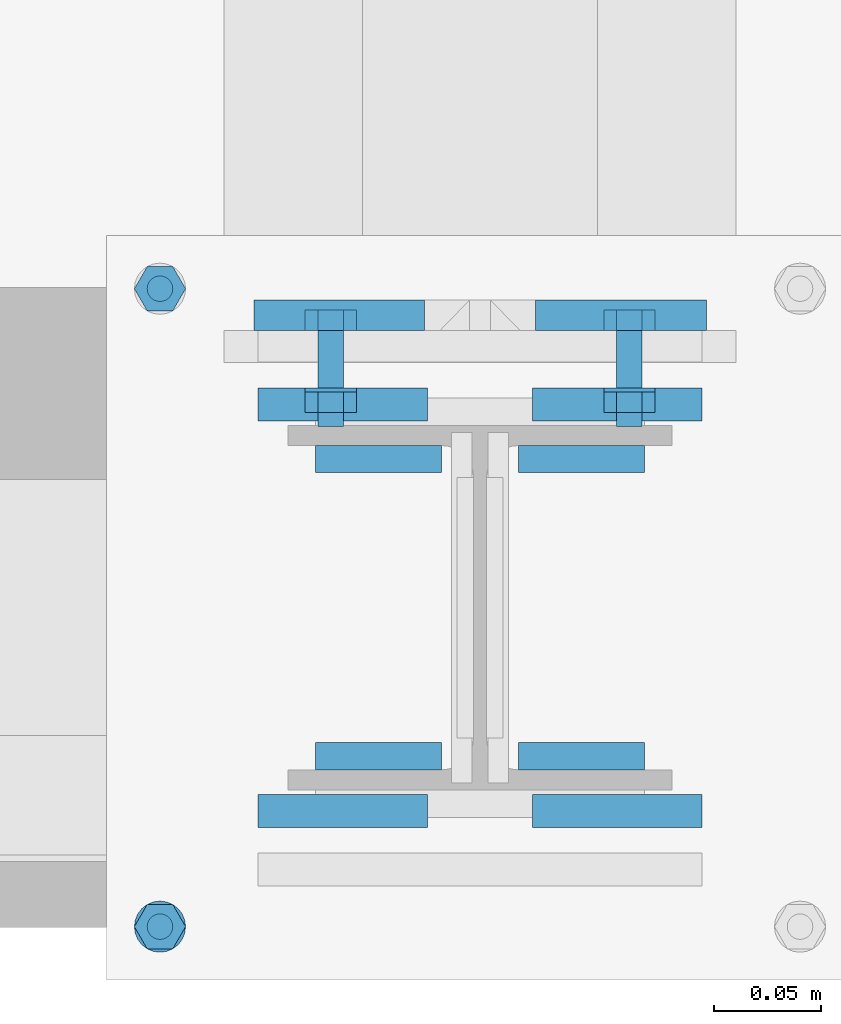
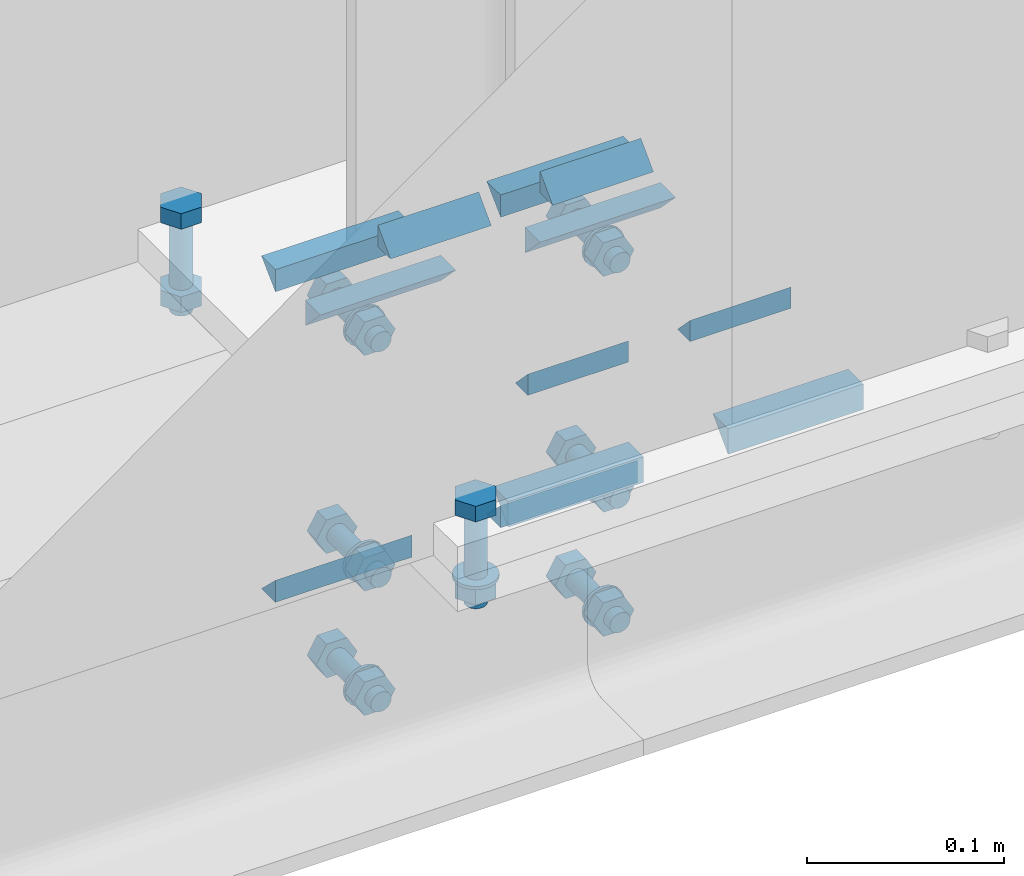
# One storey, part 36 of 66: 31 mechanical fasteners, 20 fasteners.
"""IFC4 building model written with IfcOpenShell, lengths in metres."""

import ifcopenshell
import ifcopenshell.guid

model = None  # the IFC model being written
_history = None  # IfcOwnerHistory: only IFC2X3 demands one
_inside = {}  # id of a spatial element -> (the spatial element, [elements in it])
_under = {}  # id of a project, library or spatial element -> (it, [spatial elements below it])
_declared = {}  # id of a project -> (the project, [libraries it declares])
_typed = {}  # id of a type object -> (the type object, [elements of that type])
_made_of = {}  # id of a material, layer set ... -> (it, [elements and type objects made of it])


def new_model(schema):
    """Start an empty IFC model of exactly this schema.

    Asked for "IFC4X3", IfcOpenShell would pick the latest addendum, in which some entities
    have other attributes; the version numbers below select the first issue.
    IFC2X3 requires an IfcOwnerHistory on every rooted entity: one is made here for all.
    """
    global model, _history
    if schema == "IFC4X3":
        model = ifcopenshell.file(schema_version=(4, 3, 0, 0))
    else:
        model = ifcopenshell.file(schema=schema)
    _inside.clear()
    _under.clear()
    _declared.clear()
    _typed.clear()
    _made_of.clear()
    _history = None
    if model.schema == "IFC2X3":
        org = make("IfcOrganization", Name="unknown")
        user = make(
            "IfcPersonAndOrganization",
            ThePerson=make("IfcPerson", FamilyName="unknown"),
            TheOrganization=org,
        )
        app = make(
            "IfcApplication",
            ApplicationDeveloper=org,
            Version="unknown",
            ApplicationFullName="unknown",
            ApplicationIdentifier="unknown",
        )
        _history = make(
            "IfcOwnerHistory",
            OwningUser=user,
            OwningApplication=app,
            ChangeAction="ADDED",
            CreationDate=0,
        )
    return model


def make(cls, **values):
    """One entity of the class cls with the attributes given. An attribute that is None is left unset."""
    return model.create_entity(
        cls, **{name: value for name, value in values.items() if value is not None}
    )


def rooted(cls, **values):
    """An entity with a GlobalId (a new one), such as an element, a storey or a relation."""
    return make(cls, GlobalId=ifcopenshell.guid.new(), OwnerHistory=_history, **values)


def si_unit(unit_type, name, prefix=None):
    """IfcSIUnit, for example si_unit("LENGTHUNIT", "METRE", prefix="MILLI")."""
    return make("IfcSIUnit", UnitType=unit_type, Prefix=prefix, Name=name)


def assignment(units):
    """IfcUnitAssignment: the units of a project."""
    return None if units is None else make("IfcUnitAssignment", Units=units)


def point(xyz):
    """IfcCartesianPoint."""
    return None if xyz is None else make("IfcCartesianPoint", Coordinates=xyz)


def direction(xyz):
    """IfcDirection."""
    return None if xyz is None else make("IfcDirection", DirectionRatios=xyz)


def frame(location, z_axis=None, x_axis=None):
    """IfcAxis2Placement3D, a coordinate frame: its origin and axes. An axis left out is left unset."""
    return make(
        "IfcAxis2Placement3D",
        Location=point(location),
        Axis=direction(z_axis),
        RefDirection=direction(x_axis),
    )


def origin_with_axes():
    """The frame at (0, 0, 0) with the z axis (0, 0, 1) and the x axis (1, 0, 0) written out."""
    return frame((0.0, 0.0, 0.0), z_axis=(0.0, 0.0, 1.0), x_axis=(1.0, 0.0, 0.0))


def place(relative_to, where):
    """IfcLocalPlacement: puts the frame where relative to a parent placement (None: the world)."""
    return make(
        "IfcLocalPlacement", PlacementRelTo=relative_to, RelativePlacement=where
    )


def context(
    kind, dimensions, precision=None, world=None, true_north=None, identifier=None
):
    """IfcGeometricRepresentationContext, for example the 3D "Model" context."""
    return make(
        "IfcGeometricRepresentationContext",
        ContextIdentifier=identifier,
        ContextType=kind,
        CoordinateSpaceDimension=dimensions,
        Precision=precision,
        WorldCoordinateSystem=world,
        TrueNorth=true_north,
    )


def project(units=None, contexts=None):
    """IfcProject with its units and contexts."""
    return rooted(
        "IfcProject",
        Name="project",
        RepresentationContexts=contexts,
        UnitsInContext=assignment(units),
    )


def spatial(cls, under=None, at=None, **own):
    """A site, building, storey or space (cls), placed at a placement, below another one or the project."""
    s = rooted(cls, ObjectPlacement=at, **own)
    if under is not None:
        _under.setdefault(under.id(), (under, []))[1].append(s)
    return s


def polyline(points):
    """IfcPolyline through the points."""
    return make("IfcPolyline", Points=[point(p) for p in points])


def outline(outer, holes=None, kind="AREA"):
    """IfcArbitraryClosedProfileDef: a profile drawn as a closed curve; with holes, ...WithVoids."""
    if holes is None:
        return make("IfcArbitraryClosedProfileDef", ProfileType=kind, OuterCurve=outer)
    return make(
        "IfcArbitraryProfileDefWithVoids",
        ProfileType=kind,
        OuterCurve=outer,
        InnerCurves=holes,
    )


def extrude(swept, where, along, depth):
    """IfcExtrudedAreaSolid: the profile swept, set in the frame where, extruded along a direction by depth."""
    return make(
        "IfcExtrudedAreaSolid",
        SweptArea=swept,
        Position=where,
        ExtrudedDirection=direction(along),
        Depth=depth,
    )


def shape(context_of_items, identifier, shape_type, items):
    """IfcShapeRepresentation: the items that make up one representation, for example the "Body"."""
    return make(
        "IfcShapeRepresentation",
        ContextOfItems=context_of_items,
        RepresentationIdentifier=identifier,
        RepresentationType=shape_type,
        Items=items,
    )


def made_of(thing, what):
    """Note that an element or type object is made of a material, layer set ...; save() writes the relation."""
    if what is not None:
        _made_of.setdefault(what.id(), (what, []))[1].append(thing)
    return thing


def type_object(cls, material=None, **own):
    """A type object (cls), such as IfcWallType, which elements share."""
    return made_of(rooted(cls, **own), material)


def element(
    cls,
    number,
    at=None,
    inside=None,
    cuts=None,
    type_object=None,
    material=None,
    context=None,
    identifier="Body",
    shape_type=None,
    held_by="IfcProductDefinitionShape",
    body=None,
    shapes=None,
    **own,
):
    """One element of the class cls, such as IfcWall. Its Tag is "e" and its number.

    at: its placement. inside: the storey or other place that contains it. cuts: it is an
    opening in that element (IfcRelVoidsElement). A single representation is given by context,
    identifier, shape_type and body (its items); several are given by shapes. held_by: the class
    of the entity that holds the representations. save() writes the other relations.
    """
    e = rooted(cls, Tag="e%d" % number, ObjectPlacement=at, **own)
    if body is not None:
        shapes = [shape(context, identifier, shape_type, body)]
    if shapes is not None:
        e.Representation = make(held_by, Representations=shapes)
    if inside is not None:
        _inside.setdefault(inside.id(), (inside, []))[1].append(e)
    if cuts is not None:
        rooted(
            "IfcRelVoidsElement", RelatingBuildingElement=cuts, RelatedOpeningElement=e
        )
    if type_object is not None:
        _typed.setdefault(type_object.id(), (type_object, []))[1].append(e)
    return made_of(e, material)


def aggregate(whole, parts):
    """IfcRelAggregates: a whole, such as a stair, and the parts it consists of."""
    return rooted("IfcRelAggregates", RelatingObject=whole, RelatedObjects=parts)


def save(model, path):
    """Write the relations noted so far, then the file.

    IfcRelAggregates (storeys below a building ...), IfcRelContainedInSpatialStructure (elements
    in a storey), IfcRelDefinesByType, IfcRelAssociatesMaterial and IfcRelDeclares: one each for
    every whole, place, type object, material and project.
    """
    for whole, parts in _under.values():
        aggregate(whole, parts)
    for where, things in _inside.values():
        rooted(
            "IfcRelContainedInSpatialStructure",
            RelatedElements=things,
            RelatingStructure=where,
        )
    for kind, things in _typed.values():
        rooted("IfcRelDefinesByType", RelatedObjects=things, RelatingType=kind)
    for what, things in _made_of.values():
        rooted("IfcRelAssociatesMaterial", RelatedObjects=things, RelatingMaterial=what)
    for by, libraries in _declared.values():
        rooted("IfcRelDeclares", RelatingContext=by, RelatedDefinitions=libraries)
    model.write(path)


model = new_model("IFC4")

# Units and contexts
model_context = context("Model", 3, precision=1e-05, world=origin_with_axes())
ifc_project = project(units=[si_unit("LENGTHUNIT", "METRE"), si_unit("AREAUNIT", "SQUARE_METRE"), si_unit("VOLUMEUNIT", "CUBIC_METRE"), si_unit("MASSUNIT", "GRAM", prefix="KILO"), si_unit("TIMEUNIT", "SECOND"), si_unit("PLANEANGLEUNIT", "RADIAN"), si_unit("SOLIDANGLEUNIT", "STERADIAN"), si_unit("THERMODYNAMICTEMPERATUREUNIT", "DEGREE_CELSIUS")], contexts=[model_context])

# Site, building, storey
placement_1 = place(None, origin_with_axes())
site = spatial("IfcSite", under=ifc_project, at=placement_1, Name="Italia", CompositionType="ELEMENT")
building = spatial("IfcBuilding", under=site, at=placement_1, Name="Uffici", CompositionType="ELEMENT")
storey_placement = place(None, frame((0.0, 0.0, 3.299999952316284), z_axis=(0.0, 0.0, 1.0), x_axis=(1.0, 0.0, 0.0)))
storey = spatial("IfcBuildingStorey", under=building, at=storey_placement, Name="Storey 1", CompositionType="ELEMENT", Elevation=3.299999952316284)

# Fasteners
fastener_type_1 = type_object("IfcFastenerType", Name="Collegamenti 0101_-001 0102_-002 0103_-003 0104_-004", PredefinedType="WELD")
placement_2 = place(placement_1, origin_with_axes())
fastener_1_placement = place(placement_2, origin_with_axes())
element("IfcFastener", 1, at=fastener_1_placement, inside=storey, type_object=fastener_type_1, Name="Collegamenti 0101_-001 0102_-002 0103_-003 0104_-004", context=model_context, shape_type="SweptSolid", body=[
    extrude(outline(polyline([(0.0, 0.0), (-0.0141734, 0.0137482), (0.0, 0.0137482), (0.0, 0.0)])), frame((6.72905, 0.12995, 3.2693), z_axis=(-1.0, 0.0, 0.0), x_axis=(0.0, -1.0, 0.0)), (0.0, 0.0, 1.0), 0.0801001),
])
fastener_type_2 = type_object("IfcFastenerType", Name="Collegamenti 0101_-001 0102_-002 0103_-003 0104_-004", PredefinedType="WELD")
fastener_2_placement = place(placement_2, origin_with_axes())
element("IfcFastener", 2, at=fastener_2_placement, inside=storey, type_object=fastener_type_2, Name="Collegamenti 0101_-001 0102_-002 0103_-003 0104_-004", context=model_context, shape_type="SweptSolid", body=[
    extrude(outline(polyline([(0.0, 0.0), (0.0141734, -0.0137482), (0.0, -0.0137482), (0.0, 0.0)])), frame((6.64895, 0.12995, 3.0907), z_axis=(1.0, 0.0, 0.0), x_axis=(0.0, 1.0, 0.0)), (0.0, 0.0, 1.0), 0.0801001),
])
fastener_type_3 = type_object("IfcFastenerType", Name="Collegamenti 0101_-001 0102_-002 0103_-003 0104_-004", PredefinedType="WELD")
fastener_3_placement = place(placement_2, origin_with_axes())
element("IfcFastener", 3, at=fastener_3_placement, inside=storey, type_object=fastener_type_3, Name="Collegamenti 0101_-001 0102_-002 0103_-003 0104_-004", context=model_context, shape_type="SweptSolid", body=[
    extrude(outline(polyline([(0.0, 0.0), (0.0141734, -0.0137482), (0.0, -0.0137482), (0.0, 0.0)])), frame((6.78095, 0.12995, 3.0907), z_axis=(1.0, 0.0, 0.0), x_axis=(0.0, 1.0, 0.0)), (0.0, 0.0, 1.0), 0.0801001),
])
fastener_type_4 = type_object("IfcFastenerType", Name="Collegamenti 0101_-001 0102_-002 0103_-003 0104_-004", PredefinedType="WELD")
fastener_4_placement = place(placement_2, origin_with_axes())
element("IfcFastener", 4, at=fastener_4_placement, inside=storey, type_object=fastener_type_4, Name="Collegamenti 0101_-001 0102_-002 0103_-003 0104_-004", context=model_context, shape_type="SweptSolid", body=[
    extrude(outline(polyline([(0.0, 0.0), (-0.0141733, 0.0137482), (0.0, 0.0137482), (0.0, 0.0)])), frame((6.86105, 0.12995, 3.2693), z_axis=(-1.0, 0.0, 0.0), x_axis=(0.0, -1.0, 0.0)), (0.0, 0.0, 1.0), 0.0801001),
])
fastener_type_5 = type_object("IfcFastenerType", Name="Collegamenti 0101_-001 0102_-002 0103_-003 0104_-004", PredefinedType="WELD")
fastener_5_placement = place(placement_2, origin_with_axes())
element("IfcFastener", 5, at=fastener_5_placement, inside=storey, type_object=fastener_type_5, Name="Collegamenti 0101_-001 0102_-002 0103_-003 0104_-004", context=model_context, shape_type="SweptSolid", body=[
    extrude(outline(polyline([(0.0, 0.0), (-0.0141734, 0.0137482), (0.0, 0.0137482), (0.0, 0.0)])), frame((6.72905, 0.12995, 3.2693), z_axis=(-1.0, 0.0, 0.0), x_axis=(0.0, -1.0, 0.0)), (0.0, 0.0, 1.0), 0.0801001),
])
fastener_type_6 = type_object("IfcFastenerType", Name="Collegamenti 0101_-001 0102_-002 0103_-003 0104_-004", PredefinedType="WELD")
fastener_6_placement = place(placement_2, origin_with_axes())
element("IfcFastener", 6, at=fastener_6_placement, inside=storey, type_object=fastener_type_6, Name="Collegamenti 0101_-001 0102_-002 0103_-003 0104_-004", context=model_context, shape_type="SweptSolid", body=[
    extrude(outline(polyline([(0.0, 0.0), (0.0141734, -0.0137482), (0.0, -0.0137482), (0.0, 0.0)])), frame((6.64895, 0.12995, 3.0907), z_axis=(1.0, 0.0, 0.0), x_axis=(0.0, 1.0, 0.0)), (0.0, 0.0, 1.0), 0.0801001),
])
fastener_type_7 = type_object("IfcFastenerType", Name="Collegamenti 0101_-001 0102_-002 0103_-003 0104_-004", PredefinedType="WELD")
fastener_7_placement = place(placement_2, origin_with_axes())
element("IfcFastener", 7, at=fastener_7_placement, inside=storey, type_object=fastener_type_7, Name="Collegamenti 0101_-001 0102_-002 0103_-003 0104_-004", context=model_context, shape_type="SweptSolid", body=[
    extrude(outline(polyline([(0.0, 0.0), (0.0141734, -0.0137482), (0.0, -0.0137482), (0.0, 0.0)])), frame((6.78095, 0.12995, 3.0907), z_axis=(1.0, 0.0, 0.0), x_axis=(0.0, 1.0, 0.0)), (0.0, 0.0, 1.0), 0.0801001),
])
fastener_type_8 = type_object("IfcFastenerType", Name="Collegamenti 0101_-001 0102_-002 0103_-003 0104_-004", PredefinedType="WELD")
fastener_8_placement = place(placement_2, origin_with_axes())
element("IfcFastener", 8, at=fastener_8_placement, inside=storey, type_object=fastener_type_8, Name="Collegamenti 0101_-001 0102_-002 0103_-003 0104_-004", context=model_context, shape_type="SweptSolid", body=[
    extrude(outline(polyline([(0.0, 0.0), (-0.0141733, 0.0137482), (0.0, 0.0137482), (0.0, 0.0)])), frame((6.86105, 0.12995, 3.2693), z_axis=(-1.0, 0.0, 0.0), x_axis=(0.0, -1.0, 0.0)), (0.0, 0.0, 1.0), 0.0801001),
])

# Mechanical fasteners
mechanical_fastener_type_1 = type_object("IfcMechanicalFastenerType", Name="Collegamenti 0101_-001 0102_-002 0103_-003 0104_-004", PredefinedType="BOLT")
mechanical_fastener_1_placement = place(placement_2, origin_with_axes())
element("IfcMechanicalFastener", 9, at=mechanical_fastener_1_placement, inside=storey, type_object=mechanical_fastener_type_1, Name="Collegamenti 0101_-001 0102_-002 0103_-003 0104_-004", NominalDiameter=0.0119997, context=model_context, shape_type="SweptSolid", body=[
    extrude(outline(polyline([(0.0, 0.0), (-0.0120001, 0.0), (-0.0179996, 0.0103924), (-0.0120001, 0.0207846), (0.0, 0.0207846), (0.00600004, 0.0103924), (0.0, 0.0)])), frame((6.819, 0.13, 3.09661), z_axis=(0.0, 1.0, 0.0), x_axis=(-1.0, 0.0, 0.0)), (0.0, 0.0, 1.0), 0.0096),
])
mechanical_fastener_type_2 = type_object("IfcMechanicalFastenerType", Name="Collegamenti 0101_-001 0102_-002 0103_-003 0104_-004", PredefinedType="BOLT")
mechanical_fastener_2_placement = place(placement_2, origin_with_axes())
element("IfcMechanicalFastener", 10, at=mechanical_fastener_2_placement, inside=storey, type_object=mechanical_fastener_type_2, Name="Collegamenti 0101_-001 0102_-002 0103_-003 0104_-004", NominalDiameter=0.012, context=model_context, shape_type="SweptSolid", body=[
    extrude(outline(polyline([(0.0, 0.0), (-0.000204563, -0.00155282), (-0.000803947, -0.00300002), (-0.00175762, -0.00424266), (-0.00300026, -0.00519609), (-0.00444698, -0.00579548), (-0.00600004, -0.00600004), (-0.0075531, -0.00579548), (-0.00899982, -0.00519609), (-0.0102425, -0.00424266), (-0.0111961, -0.00300002), (-0.0117955, -0.00155282), (-0.0120001, 0.0), (-0.0117955, 0.00155282), (-0.0111961, 0.00300002), (-0.0102425, 0.00424266), (-0.00899982, 0.00519609), (-0.0075531, 0.00579548), (-0.00600004, 0.00600004), (-0.00444698, 0.00579548), (-0.00300026, 0.00519609), (-0.00175762, 0.00424266), (-0.000803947, 0.00300002), (-0.000204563, 0.00155282), (0.0, 0.0)])), frame((6.819, 0.085, 3.107), z_axis=(0.0, 1.0, 0.0), x_axis=(-1.0, 0.0, 0.0)), (0.0, 0.0, 1.0), 0.045),
])
mechanical_fastener_type_3 = type_object("IfcMechanicalFastenerType", Name="Collegamenti 0101_-001 0102_-002 0103_-003 0104_-004", PredefinedType="BOLT")
mechanical_fastener_3_placement = place(placement_2, origin_with_axes())
element("IfcMechanicalFastener", 11, at=mechanical_fastener_3_placement, inside=storey, type_object=mechanical_fastener_type_3, Name="Collegamenti 0101_-001 0102_-002 0103_-003 0104_-004", NominalDiameter=0.0119997, context=model_context, shape_type="SweptSolid", body=[
    extrude(outline(polyline([(0.0, 0.0), (-0.0120001, 0.0), (-0.0179996, 0.0103924), (-0.0120001, 0.0207846), (0.0, 0.0207846), (0.00600004, 0.0103924), (0.0, 0.0)])), frame((6.819, 0.0914, 3.09661), z_axis=(0.0, 1.0, 0.0), x_axis=(-1.0, 0.0, 0.0)), (0.0, 0.0, 1.0), 0.0096),
])
mechanical_fastener_type_4 = type_object("IfcMechanicalFastenerType", Name="Collegamenti 0101_-001 0102_-002 0103_-003 0104_-004", PredefinedType="BOLT")
mechanical_fastener_4_placement = place(placement_2, origin_with_axes())
element("IfcMechanicalFastener", 12, at=mechanical_fastener_4_placement, inside=storey, type_object=mechanical_fastener_type_4, Name="Collegamenti 0101_-001 0102_-002 0103_-003 0104_-004", NominalDiameter=0.024, context=model_context, shape_type="SweptSolid", body=[
    extrude(outline(polyline([(0.0, 0.0), (-0.000409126, -0.00310588), (-0.00160789, -0.00600004), (-0.00351477, -0.00848532), (-0.00600004, -0.0103922), (-0.00889444, -0.0115912), (-0.0120001, -0.0120001), (-0.0151057, -0.0115912), (-0.0180001, -0.0103922), (-0.0204854, -0.00848532), (-0.0223923, -0.00600004), (-0.023591, -0.00310588), (-0.0240002, 0.0), (-0.023591, 0.00310588), (-0.0223923, 0.00600004), (-0.0204854, 0.00848532), (-0.0180001, 0.0103922), (-0.0151057, 0.0115912), (-0.0120001, 0.0120001), (-0.00889444, 0.0115912), (-0.00600004, 0.0103922), (-0.00351477, 0.00848532), (-0.00160789, 0.00600004), (-0.000409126, 0.00310588), (0.0, 0.0)])), frame((6.813, 0.101, 3.107), z_axis=(0.0, 1.0, 0.0), x_axis=(-1.0, 0.0, 0.0)), (0.0, 0.0, 1.0), 0.002),
])
mechanical_fastener_type_5 = type_object("IfcMechanicalFastenerType", Name="Collegamenti 0101_-001 0102_-002 0103_-003 0104_-004", PredefinedType="BOLT")
mechanical_fastener_5_placement = place(placement_2, origin_with_axes())
element("IfcMechanicalFastener", 13, at=mechanical_fastener_5_placement, inside=storey, type_object=mechanical_fastener_type_5, Name="Collegamenti 0101_-001 0102_-002 0103_-003 0104_-004", NominalDiameter=0.0119997, context=model_context, shape_type="SweptSolid", body=[
    extrude(outline(polyline([(0.0, 0.0), (-0.0120001, 0.0), (-0.0180001, 0.0103924), (-0.0120001, 0.0207846), (0.0, 0.0207846), (0.00599957, 0.0103924), (0.0, 0.0)])), frame((6.679, 0.13, 3.09661), z_axis=(0.0, 1.0, 0.0), x_axis=(-1.0, 0.0, 0.0)), (0.0, 0.0, 1.0), 0.0096),
])
mechanical_fastener_type_6 = type_object("IfcMechanicalFastenerType", Name="Collegamenti 0101_-001 0102_-002 0103_-003 0104_-004", PredefinedType="BOLT")
mechanical_fastener_6_placement = place(placement_2, origin_with_axes())
element("IfcMechanicalFastener", 14, at=mechanical_fastener_6_placement, inside=storey, type_object=mechanical_fastener_type_6, Name="Collegamenti 0101_-001 0102_-002 0103_-003 0104_-004", NominalDiameter=0.012, context=model_context, shape_type="SweptSolid", body=[
    extrude(outline(polyline([(0.0, 0.0), (-0.000204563, -0.00155282), (-0.000803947, -0.00300002), (-0.00175762, -0.00424266), (-0.00300026, -0.00519609), (-0.00444698, -0.00579548), (-0.00600004, -0.00600004), (-0.0075531, -0.00579548), (-0.00899982, -0.00519609), (-0.0102425, -0.00424266), (-0.0111961, -0.00300002), (-0.0117955, -0.00155282), (-0.0120001, 0.0), (-0.0117955, 0.00155282), (-0.0111961, 0.00300002), (-0.0102425, 0.00424266), (-0.00899982, 0.00519609), (-0.0075531, 0.00579548), (-0.00600004, 0.00600004), (-0.00444698, 0.00579548), (-0.00300026, 0.00519609), (-0.00175762, 0.00424266), (-0.000803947, 0.00300002), (-0.000204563, 0.00155282), (0.0, 0.0)])), frame((6.679, 0.085, 3.107), z_axis=(0.0, 1.0, 0.0), x_axis=(-1.0, 0.0, 0.0)), (0.0, 0.0, 1.0), 0.045),
])
mechanical_fastener_type_7 = type_object("IfcMechanicalFastenerType", Name="Collegamenti 0101_-001 0102_-002 0103_-003 0104_-004", PredefinedType="BOLT")
mechanical_fastener_7_placement = place(placement_2, origin_with_axes())
element("IfcMechanicalFastener", 15, at=mechanical_fastener_7_placement, inside=storey, type_object=mechanical_fastener_type_7, Name="Collegamenti 0101_-001 0102_-002 0103_-003 0104_-004", NominalDiameter=0.0119997, context=model_context, shape_type="SweptSolid", body=[
    extrude(outline(polyline([(0.0, 0.0), (-0.0120001, 0.0), (-0.0180001, 0.0103924), (-0.0120001, 0.0207846), (0.0, 0.0207846), (0.00599957, 0.0103924), (0.0, 0.0)])), frame((6.679, 0.0914, 3.09661), z_axis=(0.0, 1.0, 0.0), x_axis=(-1.0, 0.0, 0.0)), (0.0, 0.0, 1.0), 0.00960001),
])
mechanical_fastener_type_8 = type_object("IfcMechanicalFastenerType", Name="Collegamenti 0101_-001 0102_-002 0103_-003 0104_-004", PredefinedType="BOLT")
mechanical_fastener_8_placement = place(placement_2, origin_with_axes())
element("IfcMechanicalFastener", 16, at=mechanical_fastener_8_placement, inside=storey, type_object=mechanical_fastener_type_8, Name="Collegamenti 0101_-001 0102_-002 0103_-003 0104_-004", NominalDiameter=0.024, context=model_context, shape_type="SweptSolid", body=[
    extrude(outline(polyline([(0.0, 0.0), (-0.000409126, -0.00310588), (-0.00160789, -0.00600004), (-0.00351477, -0.00848532), (-0.00600004, -0.0103922), (-0.00889444, -0.0115912), (-0.0120001, -0.0120001), (-0.0151057, -0.0115912), (-0.0180001, -0.0103922), (-0.0204854, -0.00848532), (-0.0223923, -0.00600004), (-0.023591, -0.00310588), (-0.0240002, 0.0), (-0.023591, 0.00310588), (-0.0223923, 0.00600004), (-0.0204854, 0.00848532), (-0.0180001, 0.0103922), (-0.0151057, 0.0115912), (-0.0120001, 0.0120001), (-0.00889444, 0.0115912), (-0.00600004, 0.0103922), (-0.00351477, 0.00848532), (-0.00160789, 0.00600004), (-0.000409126, 0.00310588), (0.0, 0.0)])), frame((6.673, 0.101, 3.107), z_axis=(0.0, 1.0, 0.0), x_axis=(-1.0, 0.0, 0.0)), (0.0, 0.0, 1.0), 0.002),
])
mechanical_fastener_type_9 = type_object("IfcMechanicalFastenerType", Name="Collegamenti 0101_-001 0102_-002 0103_-003 0104_-004", PredefinedType="BOLT")
mechanical_fastener_9_placement = place(placement_2, origin_with_axes())
element("IfcMechanicalFastener", 17, at=mechanical_fastener_9_placement, inside=storey, type_object=mechanical_fastener_type_9, Name="Collegamenti 0101_-001 0102_-002 0103_-003 0104_-004", NominalDiameter=0.0119997, context=model_context, shape_type="SweptSolid", body=[
    extrude(outline(polyline([(0.0, 0.0), (-0.0120001, 0.0), (-0.0179996, 0.0103922), (-0.0120001, 0.0207846), (0.0, 0.0207846), (0.00600004, 0.0103922), (0.0, 0.0)])), frame((6.819, 0.13, 3.24261), z_axis=(0.0, 1.0, 0.0), x_axis=(-1.0, 0.0, 0.0)), (0.0, 0.0, 1.0), 0.0096),
])
mechanical_fastener_type_10 = type_object("IfcMechanicalFastenerType", Name="Collegamenti 0101_-001 0102_-002 0103_-003 0104_-004", PredefinedType="BOLT")
mechanical_fastener_10_placement = place(placement_2, origin_with_axes())
element("IfcMechanicalFastener", 18, at=mechanical_fastener_10_placement, inside=storey, type_object=mechanical_fastener_type_10, Name="Collegamenti 0101_-001 0102_-002 0103_-003 0104_-004", NominalDiameter=0.012, context=model_context, shape_type="SweptSolid", body=[
    extrude(outline(polyline([(0.0, 0.0), (-0.000204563, -0.00155282), (-0.000803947, -0.00300002), (-0.00175762, -0.00424266), (-0.00300026, -0.00519609), (-0.00444698, -0.00579548), (-0.00600004, -0.00600004), (-0.0075531, -0.00579548), (-0.00899982, -0.00519609), (-0.0102425, -0.00424266), (-0.0111961, -0.00300002), (-0.0117955, -0.00155282), (-0.0120001, 0.0), (-0.0117955, 0.00155282), (-0.0111961, 0.00300002), (-0.0102425, 0.00424266), (-0.00899982, 0.00519609), (-0.0075531, 0.00579548), (-0.00600004, 0.00600004), (-0.00444698, 0.00579548), (-0.00300026, 0.00519609), (-0.00175762, 0.00424266), (-0.000803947, 0.00300002), (-0.000204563, 0.00155282), (0.0, 0.0)])), frame((6.819, 0.085, 3.253), z_axis=(0.0, 1.0, 0.0), x_axis=(-1.0, 0.0, 0.0)), (0.0, 0.0, 1.0), 0.045),
])
mechanical_fastener_type_11 = type_object("IfcMechanicalFastenerType", Name="Collegamenti 0101_-001 0102_-002 0103_-003 0104_-004", PredefinedType="BOLT")
mechanical_fastener_11_placement = place(placement_2, origin_with_axes())
element("IfcMechanicalFastener", 19, at=mechanical_fastener_11_placement, inside=storey, type_object=mechanical_fastener_type_11, Name="Collegamenti 0101_-001 0102_-002 0103_-003 0104_-004", NominalDiameter=0.0119997, context=model_context, shape_type="SweptSolid", body=[
    extrude(outline(polyline([(0.0, 0.0), (-0.0120001, 0.0), (-0.0179996, 0.0103922), (-0.0120001, 0.0207846), (0.0, 0.0207846), (0.00600004, 0.0103922), (0.0, 0.0)])), frame((6.819, 0.0914, 3.24261), z_axis=(0.0, 1.0, 0.0), x_axis=(-1.0, 0.0, 0.0)), (0.0, 0.0, 1.0), 0.0096),
])
mechanical_fastener_type_12 = type_object("IfcMechanicalFastenerType", Name="Collegamenti 0101_-001 0102_-002 0103_-003 0104_-004", PredefinedType="BOLT")
mechanical_fastener_12_placement = place(placement_2, origin_with_axes())
element("IfcMechanicalFastener", 20, at=mechanical_fastener_12_placement, inside=storey, type_object=mechanical_fastener_type_12, Name="Collegamenti 0101_-001 0102_-002 0103_-003 0104_-004", NominalDiameter=0.024, context=model_context, shape_type="SweptSolid", body=[
    extrude(outline(polyline([(0.0, 0.0), (-0.000409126, -0.00310588), (-0.00160789, -0.00600004), (-0.00351477, -0.00848532), (-0.00600004, -0.0103922), (-0.00889444, -0.0115912), (-0.0120001, -0.0120001), (-0.0151057, -0.0115912), (-0.0180001, -0.0103922), (-0.0204854, -0.00848532), (-0.0223923, -0.00600004), (-0.023591, -0.00310588), (-0.0240002, 0.0), (-0.023591, 0.00310588), (-0.0223923, 0.00600004), (-0.0204854, 0.00848532), (-0.0180001, 0.0103922), (-0.0151057, 0.0115912), (-0.0120001, 0.0120001), (-0.00889444, 0.0115912), (-0.00600004, 0.0103922), (-0.00351477, 0.00848532), (-0.00160789, 0.00600004), (-0.000409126, 0.00310588), (0.0, 0.0)])), frame((6.813, 0.101, 3.253), z_axis=(0.0, 1.0, 0.0), x_axis=(-1.0, 0.0, 0.0)), (0.0, 0.0, 1.0), 0.002),
])
mechanical_fastener_type_13 = type_object("IfcMechanicalFastenerType", Name="Collegamenti 0101_-001 0102_-002 0103_-003 0104_-004", PredefinedType="BOLT")
mechanical_fastener_13_placement = place(placement_2, origin_with_axes())
element("IfcMechanicalFastener", 21, at=mechanical_fastener_13_placement, inside=storey, type_object=mechanical_fastener_type_13, Name="Collegamenti 0101_-001 0102_-002 0103_-003 0104_-004", NominalDiameter=0.0119997, context=model_context, shape_type="SweptSolid", body=[
    extrude(outline(polyline([(0.0, 0.0), (-0.0120001, 0.0), (-0.0180001, 0.0103922), (-0.0120001, 0.0207846), (0.0, 0.0207846), (0.00599957, 0.0103922), (0.0, 0.0)])), frame((6.679, 0.13, 3.24261), z_axis=(0.0, 1.0, 0.0), x_axis=(-1.0, 0.0, 0.0)), (0.0, 0.0, 1.0), 0.0096),
])
mechanical_fastener_type_14 = type_object("IfcMechanicalFastenerType", Name="Collegamenti 0101_-001 0102_-002 0103_-003 0104_-004", PredefinedType="BOLT")
mechanical_fastener_14_placement = place(placement_2, origin_with_axes())
element("IfcMechanicalFastener", 22, at=mechanical_fastener_14_placement, inside=storey, type_object=mechanical_fastener_type_14, Name="Collegamenti 0101_-001 0102_-002 0103_-003 0104_-004", NominalDiameter=0.012, context=model_context, shape_type="SweptSolid", body=[
    extrude(outline(polyline([(0.0, 0.0), (-0.000204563, -0.00155282), (-0.000803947, -0.00300002), (-0.00175762, -0.00424266), (-0.00300026, -0.00519609), (-0.00444698, -0.00579548), (-0.00600004, -0.00600004), (-0.0075531, -0.00579548), (-0.00899982, -0.00519609), (-0.0102425, -0.00424266), (-0.0111961, -0.00300002), (-0.0117955, -0.00155282), (-0.0120001, 0.0), (-0.0117955, 0.00155282), (-0.0111961, 0.00300002), (-0.0102425, 0.00424266), (-0.00899982, 0.00519609), (-0.0075531, 0.00579548), (-0.00600004, 0.00600004), (-0.00444698, 0.00579548), (-0.00300026, 0.00519609), (-0.00175762, 0.00424266), (-0.000803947, 0.00300002), (-0.000204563, 0.00155282), (0.0, 0.0)])), frame((6.679, 0.085, 3.253), z_axis=(0.0, 1.0, 0.0), x_axis=(-1.0, 0.0, 0.0)), (0.0, 0.0, 1.0), 0.045),
])
mechanical_fastener_type_15 = type_object("IfcMechanicalFastenerType", Name="Collegamenti 0101_-001 0102_-002 0103_-003 0104_-004", PredefinedType="BOLT")
mechanical_fastener_15_placement = place(placement_2, origin_with_axes())
element("IfcMechanicalFastener", 23, at=mechanical_fastener_15_placement, inside=storey, type_object=mechanical_fastener_type_15, Name="Collegamenti 0101_-001 0102_-002 0103_-003 0104_-004", NominalDiameter=0.0119997, context=model_context, shape_type="SweptSolid", body=[
    extrude(outline(polyline([(0.0, 0.0), (-0.0120001, 0.0), (-0.0180001, 0.0103922), (-0.0120001, 0.0207846), (0.0, 0.0207846), (0.00599957, 0.0103922), (0.0, 0.0)])), frame((6.679, 0.0914, 3.24261), z_axis=(0.0, 1.0, 0.0), x_axis=(-1.0, 0.0, 0.0)), (0.0, 0.0, 1.0), 0.00960001),
])
mechanical_fastener_type_16 = type_object("IfcMechanicalFastenerType", Name="Collegamenti 0101_-001 0102_-002 0103_-003 0104_-004", PredefinedType="BOLT")
mechanical_fastener_16_placement = place(placement_2, origin_with_axes())
element("IfcMechanicalFastener", 24, at=mechanical_fastener_16_placement, inside=storey, type_object=mechanical_fastener_type_16, Name="Collegamenti 0101_-001 0102_-002 0103_-003 0104_-004", NominalDiameter=0.024, context=model_context, shape_type="SweptSolid", body=[
    extrude(outline(polyline([(0.0, 0.0), (-0.000409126, -0.00310588), (-0.00160789, -0.00600004), (-0.00351477, -0.00848532), (-0.00600004, -0.0103922), (-0.00889444, -0.0115912), (-0.0120001, -0.0120001), (-0.0151057, -0.0115912), (-0.0180001, -0.0103922), (-0.0204854, -0.00848532), (-0.0223923, -0.00600004), (-0.023591, -0.00310588), (-0.0240002, 0.0), (-0.023591, 0.00310588), (-0.0223923, 0.00600004), (-0.0204854, 0.00848532), (-0.0180001, 0.0103922), (-0.0151057, 0.0115912), (-0.0120001, 0.0120001), (-0.00889444, 0.0115912), (-0.00600004, 0.0103922), (-0.00351477, 0.00848532), (-0.00160789, 0.00600004), (-0.000409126, 0.00310588), (0.0, 0.0)])), frame((6.673, 0.101, 3.253), z_axis=(0.0, 1.0, 0.0), x_axis=(-1.0, 0.0, 0.0)), (0.0, 0.0, 1.0), 0.002),
])
mechanical_fastener_type_17 = type_object("IfcMechanicalFastenerType", Name="Collegamenti 0101_-001 0102_-002 0103_-003 0104_-004", PredefinedType="BOLT")
mechanical_fastener_17_placement = place(placement_2, origin_with_axes())
element("IfcMechanicalFastener", 25, at=mechanical_fastener_17_placement, inside=storey, type_object=mechanical_fastener_type_17, Name="Collegamenti 0101_-001 0102_-002 0103_-003 0104_-004", NominalDiameter=0.0119997, context=model_context, shape_type="SweptSolid", body=[
    extrude(outline(polyline([(0.0, 0.0), (-0.0120001, 0.0), (-0.0179996, 0.0103922), (-0.0120001, 0.0207846), (0.0, 0.0207846), (0.00600004, 0.0103922), (0.0, 0.0)])), frame((6.819, 0.13, 3.01961), z_axis=(0.0, 1.0, 0.0), x_axis=(-1.0, 0.0, 0.0)), (0.0, 0.0, 1.0), 0.0096),
])
mechanical_fastener_type_18 = type_object("IfcMechanicalFastenerType", Name="Collegamenti 0101_-001 0102_-002 0103_-003 0104_-004", PredefinedType="BOLT")
mechanical_fastener_18_placement = place(placement_2, origin_with_axes())
element("IfcMechanicalFastener", 26, at=mechanical_fastener_18_placement, inside=storey, type_object=mechanical_fastener_type_18, Name="Collegamenti 0101_-001 0102_-002 0103_-003 0104_-004", NominalDiameter=0.012, context=model_context, shape_type="SweptSolid", body=[
    extrude(outline(polyline([(0.0, 0.0), (-0.000204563, -0.00155282), (-0.000803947, -0.00300002), (-0.00175762, -0.00424266), (-0.00300026, -0.00519609), (-0.00444698, -0.00579548), (-0.00600004, -0.00600004), (-0.0075531, -0.00579548), (-0.00899982, -0.00519609), (-0.0102425, -0.00424266), (-0.0111961, -0.00300002), (-0.0117955, -0.00155282), (-0.0120001, 0.0), (-0.0117955, 0.00155282), (-0.0111961, 0.00300002), (-0.0102425, 0.00424266), (-0.00899982, 0.00519609), (-0.0075531, 0.00579548), (-0.00600004, 0.00600004), (-0.00444698, 0.00579548), (-0.00300026, 0.00519609), (-0.00175762, 0.00424266), (-0.000803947, 0.00300002), (-0.000204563, 0.00155282), (0.0, 0.0)])), frame((6.819, 0.085, 3.03), z_axis=(0.0, 1.0, 0.0), x_axis=(-1.0, 0.0, 0.0)), (0.0, 0.0, 1.0), 0.045),
])
mechanical_fastener_type_19 = type_object("IfcMechanicalFastenerType", Name="Collegamenti 0101_-001 0102_-002 0103_-003 0104_-004", PredefinedType="BOLT")
mechanical_fastener_19_placement = place(placement_2, origin_with_axes())
element("IfcMechanicalFastener", 27, at=mechanical_fastener_19_placement, inside=storey, type_object=mechanical_fastener_type_19, Name="Collegamenti 0101_-001 0102_-002 0103_-003 0104_-004", NominalDiameter=0.0119997, context=model_context, shape_type="SweptSolid", body=[
    extrude(outline(polyline([(0.0, 0.0), (-0.0120001, 0.0), (-0.0179996, 0.0103922), (-0.0120001, 0.0207846), (0.0, 0.0207846), (0.00600004, 0.0103922), (0.0, 0.0)])), frame((6.819, 0.0914, 3.01961), z_axis=(0.0, 1.0, 0.0), x_axis=(-1.0, 0.0, 0.0)), (0.0, 0.0, 1.0), 0.0096),
])
mechanical_fastener_type_20 = type_object("IfcMechanicalFastenerType", Name="Collegamenti 0101_-001 0102_-002 0103_-003 0104_-004", PredefinedType="BOLT")
mechanical_fastener_20_placement = place(placement_2, origin_with_axes())
element("IfcMechanicalFastener", 28, at=mechanical_fastener_20_placement, inside=storey, type_object=mechanical_fastener_type_20, Name="Collegamenti 0101_-001 0102_-002 0103_-003 0104_-004", NominalDiameter=0.024, context=model_context, shape_type="SweptSolid", body=[
    extrude(outline(polyline([(0.0, 0.0), (-0.000409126, -0.00310588), (-0.00160789, -0.00600004), (-0.00351477, -0.00848532), (-0.00600004, -0.0103922), (-0.00889444, -0.0115912), (-0.0120001, -0.0120001), (-0.0151057, -0.0115912), (-0.0180001, -0.0103922), (-0.0204854, -0.00848532), (-0.0223923, -0.00600004), (-0.023591, -0.00310588), (-0.0240002, 0.0), (-0.023591, 0.00310588), (-0.0223923, 0.00600004), (-0.0204854, 0.00848532), (-0.0180001, 0.0103922), (-0.0151057, 0.0115912), (-0.0120001, 0.0120001), (-0.00889444, 0.0115912), (-0.00600004, 0.0103922), (-0.00351477, 0.00848532), (-0.00160789, 0.00600004), (-0.000409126, 0.00310588), (0.0, 0.0)])), frame((6.813, 0.101, 3.03), z_axis=(0.0, 1.0, 0.0), x_axis=(-1.0, 0.0, 0.0)), (0.0, 0.0, 1.0), 0.002),
])
mechanical_fastener_type_21 = type_object("IfcMechanicalFastenerType", Name="Collegamenti 0101_-001 0102_-002 0103_-003 0104_-004", PredefinedType="BOLT")
mechanical_fastener_21_placement = place(placement_2, origin_with_axes())
element("IfcMechanicalFastener", 29, at=mechanical_fastener_21_placement, inside=storey, type_object=mechanical_fastener_type_21, Name="Collegamenti 0101_-001 0102_-002 0103_-003 0104_-004", NominalDiameter=0.0119997, context=model_context, shape_type="SweptSolid", body=[
    extrude(outline(polyline([(0.0, 0.0), (-0.0120001, 0.0), (-0.0180001, 0.0103922), (-0.0120001, 0.0207846), (0.0, 0.0207846), (0.00599957, 0.0103922), (0.0, 0.0)])), frame((6.679, 0.13, 3.01961), z_axis=(0.0, 1.0, 0.0), x_axis=(-1.0, 0.0, 0.0)), (0.0, 0.0, 1.0), 0.0096),
])
mechanical_fastener_type_22 = type_object("IfcMechanicalFastenerType", Name="Collegamenti 0101_-001 0102_-002 0103_-003 0104_-004", PredefinedType="BOLT")
mechanical_fastener_22_placement = place(placement_2, origin_with_axes())
element("IfcMechanicalFastener", 30, at=mechanical_fastener_22_placement, inside=storey, type_object=mechanical_fastener_type_22, Name="Collegamenti 0101_-001 0102_-002 0103_-003 0104_-004", NominalDiameter=0.012, context=model_context, shape_type="SweptSolid", body=[
    extrude(outline(polyline([(0.0, 0.0), (-0.000204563, -0.00155282), (-0.000803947, -0.00300002), (-0.00175762, -0.00424266), (-0.00300026, -0.00519609), (-0.00444698, -0.00579548), (-0.00600004, -0.00600004), (-0.0075531, -0.00579548), (-0.00899982, -0.00519609), (-0.0102425, -0.00424266), (-0.0111961, -0.00300002), (-0.0117955, -0.00155282), (-0.0120001, 0.0), (-0.0117955, 0.00155282), (-0.0111961, 0.00300002), (-0.0102425, 0.00424266), (-0.00899982, 0.00519609), (-0.0075531, 0.00579548), (-0.00600004, 0.00600004), (-0.00444698, 0.00579548), (-0.00300026, 0.00519609), (-0.00175762, 0.00424266), (-0.000803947, 0.00300002), (-0.000204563, 0.00155282), (0.0, 0.0)])), frame((6.679, 0.085, 3.03), z_axis=(0.0, 1.0, 0.0), x_axis=(-1.0, 0.0, 0.0)), (0.0, 0.0, 1.0), 0.045),
])
mechanical_fastener_type_23 = type_object("IfcMechanicalFastenerType", Name="Collegamenti 0101_-001 0102_-002 0103_-003 0104_-004", PredefinedType="BOLT")
mechanical_fastener_23_placement = place(placement_2, origin_with_axes())
element("IfcMechanicalFastener", 31, at=mechanical_fastener_23_placement, inside=storey, type_object=mechanical_fastener_type_23, Name="Collegamenti 0101_-001 0102_-002 0103_-003 0104_-004", NominalDiameter=0.0119997, context=model_context, shape_type="SweptSolid", body=[
    extrude(outline(polyline([(0.0, 0.0), (-0.0120001, 0.0), (-0.0180001, 0.0103922), (-0.0120001, 0.0207846), (0.0, 0.0207846), (0.00599957, 0.0103922), (0.0, 0.0)])), frame((6.679, 0.0914, 3.01961), z_axis=(0.0, 1.0, 0.0), x_axis=(-1.0, 0.0, 0.0)), (0.0, 0.0, 1.0), 0.00960001),
])
mechanical_fastener_type_24 = type_object("IfcMechanicalFastenerType", Name="Collegamenti 0101_-001 0102_-002 0103_-003 0104_-004", PredefinedType="BOLT")
mechanical_fastener_24_placement = place(placement_2, origin_with_axes())
element("IfcMechanicalFastener", 32, at=mechanical_fastener_24_placement, inside=storey, type_object=mechanical_fastener_type_24, Name="Collegamenti 0101_-001 0102_-002 0103_-003 0104_-004", NominalDiameter=0.024, context=model_context, shape_type="SweptSolid", body=[
    extrude(outline(polyline([(0.0, 0.0), (-0.000409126, -0.00310588), (-0.00160789, -0.00600004), (-0.00351477, -0.00848532), (-0.00600004, -0.0103922), (-0.00889444, -0.0115912), (-0.0120001, -0.0120001), (-0.0151057, -0.0115912), (-0.0180001, -0.0103922), (-0.0204854, -0.00848532), (-0.0223923, -0.00600004), (-0.023591, -0.00310588), (-0.0240002, 0.0), (-0.023591, 0.00310588), (-0.0223923, 0.00600004), (-0.0204854, 0.00848532), (-0.0180001, 0.0103922), (-0.0151057, 0.0115912), (-0.0120001, 0.0120001), (-0.00889444, 0.0115912), (-0.00600004, 0.0103922), (-0.00351477, 0.00848532), (-0.00160789, 0.00600004), (-0.000409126, 0.00310588), (0.0, 0.0)])), frame((6.673, 0.101, 3.03), z_axis=(0.0, 1.0, 0.0), x_axis=(-1.0, 0.0, 0.0)), (0.0, 0.0, 1.0), 0.002),
])

# Fasteners
fastener_type_9 = type_object("IfcFastenerType", Name="Collegamenti 0101_0201 0102_0202 0103_0203 0104_0204 0105_0205", PredefinedType="WELD")
fastener_9_placement = place(placement_2, origin_with_axes())
element("IfcFastener", 33, at=fastener_9_placement, inside=storey, type_object=fastener_type_9, Name="Collegamenti 0101_0201 0102_0202 0103_0203 0104_0204 0105_0205", context=model_context, shape_type="SweptSolid", body=[
    extrude(outline(polyline([(0.0, 0.0), (0.0127782, 0.0131733), (0.0127782, 0.0), (0.0, 0.0)])), frame((6.77295, 0.0632718, 3.31995), z_axis=(1.0, 0.0, 0.0), x_axis=(0.0, 1.0, 0.0)), (0.0, 0.0, 1.0), 0.0591002),
])
fastener_type_10 = type_object("IfcFastenerType", Name="Collegamenti 0101_0201 0102_0202 0103_0203 0104_0204 0105_0205", PredefinedType="WELD")
fastener_10_placement = place(placement_2, origin_with_axes())
element("IfcFastener", 34, at=fastener_10_placement, inside=storey, type_object=fastener_type_10, Name="Collegamenti 0101_0201 0102_0202 0103_0203 0104_0204 0105_0205", context=model_context, shape_type="SweptSolid", body=[
    extrude(outline(polyline([(0.0, 0.0), (0.0127782, 0.0131733), (0.0127782, 0.0), (0.0, 0.0)])), frame((6.83205, -0.0632718, 3.31995), z_axis=(-1.0, 0.0, 0.0), x_axis=(0.0, -1.0, 0.0)), (0.0, 0.0, 1.0), 0.0591002),
])
fastener_type_11 = type_object("IfcFastenerType", Name="Collegamenti 0101_0201 0102_0202 0103_0203 0104_0204 0105_0205", PredefinedType="WELD")
fastener_11_placement = place(placement_2, origin_with_axes())
element("IfcFastener", 35, at=fastener_11_placement, inside=storey, type_object=fastener_type_11, Name="Collegamenti 0101_0201 0102_0202 0103_0203 0104_0204 0105_0205", context=model_context, shape_type="SweptSolid", body=[
    extrude(outline(polyline([(0.0, 0.0), (0.0127782, 0.0131733), (0.0127782, 0.0), (0.0, 0.0)])), frame((6.73705, -0.0632718, 3.31995), z_axis=(-1.0, 0.0, 0.0), x_axis=(0.0, -1.0, 0.0)), (0.0, 0.0, 1.0), 0.0591002),
])
fastener_type_12 = type_object("IfcFastenerType", Name="Collegamenti 0101_0201 0102_0202 0103_0203 0104_0204 0105_0205", PredefinedType="WELD")
fastener_12_placement = place(placement_2, origin_with_axes())
element("IfcFastener", 36, at=fastener_12_placement, inside=storey, type_object=fastener_type_12, Name="Collegamenti 0101_0201 0102_0202 0103_0203 0104_0204 0105_0205", context=model_context, shape_type="SweptSolid", body=[
    extrude(outline(polyline([(0.0, 0.0), (0.0127782, 0.0131733), (0.0127782, 0.0), (0.0, 0.0)])), frame((6.67795, 0.0632718, 3.31995), z_axis=(1.0, 0.0, 0.0), x_axis=(0.0, 1.0, 0.0)), (0.0, 0.0, 1.0), 0.0591002),
])
fastener_type_13 = type_object("IfcFastenerType", Name="Collegamenti 0101_0201 0102_0202 0103_0203 0104_0204 0105_0205", PredefinedType="WELD")
fastener_13_placement = place(placement_2, origin_with_axes())
element("IfcFastener", 37, at=fastener_13_placement, inside=storey, type_object=fastener_type_13, Name="Collegamenti 0101_0201 0102_0202 0103_0203 0104_0204 0105_0205", context=model_context, shape_type="SweptSolid", body=[
    extrude(outline(polyline([(0.0, 0.0), (0.0127782, 0.0131733), (0.0127782, 0.0), (0.0, 0.0)])), frame((6.77295, 0.0632718, 3.31995), z_axis=(1.0, 0.0, 0.0), x_axis=(0.0, 1.0, 0.0)), (0.0, 0.0, 1.0), 0.0591002),
])
fastener_type_14 = type_object("IfcFastenerType", Name="Collegamenti 0101_0201 0102_0202 0103_0203 0104_0204 0105_0205", PredefinedType="WELD")
fastener_14_placement = place(placement_2, origin_with_axes())
element("IfcFastener", 38, at=fastener_14_placement, inside=storey, type_object=fastener_type_14, Name="Collegamenti 0101_0201 0102_0202 0103_0203 0104_0204 0105_0205", context=model_context, shape_type="SweptSolid", body=[
    extrude(outline(polyline([(0.0, 0.0), (0.0127782, 0.0131733), (0.0127782, 0.0), (0.0, 0.0)])), frame((6.83205, -0.0632718, 3.31995), z_axis=(-1.0, 0.0, 0.0), x_axis=(0.0, -1.0, 0.0)), (0.0, 0.0, 1.0), 0.0591002),
])
fastener_type_15 = type_object("IfcFastenerType", Name="Collegamenti 0101_0201 0102_0202 0103_0203 0104_0204 0105_0205", PredefinedType="WELD")
fastener_15_placement = place(placement_2, origin_with_axes())
element("IfcFastener", 39, at=fastener_15_placement, inside=storey, type_object=fastener_type_15, Name="Collegamenti 0101_0201 0102_0202 0103_0203 0104_0204 0105_0205", context=model_context, shape_type="SweptSolid", body=[
    extrude(outline(polyline([(0.0, 0.0), (0.0127782, 0.0131733), (0.0127782, 0.0), (0.0, 0.0)])), frame((6.73705, -0.0632718, 3.31995), z_axis=(-1.0, 0.0, 0.0), x_axis=(0.0, -1.0, 0.0)), (0.0, 0.0, 1.0), 0.0591002),
])
fastener_type_16 = type_object("IfcFastenerType", Name="Collegamenti 0101_0201 0102_0202 0103_0203 0104_0204 0105_0205", PredefinedType="WELD")
fastener_16_placement = place(placement_2, origin_with_axes())
element("IfcFastener", 40, at=fastener_16_placement, inside=storey, type_object=fastener_type_16, Name="Collegamenti 0101_0201 0102_0202 0103_0203 0104_0204 0105_0205", context=model_context, shape_type="SweptSolid", body=[
    extrude(outline(polyline([(0.0, 0.0), (0.0127782, 0.0131733), (0.0127782, 0.0), (0.0, 0.0)])), frame((6.67795, 0.0632718, 3.31995), z_axis=(1.0, 0.0, 0.0), x_axis=(0.0, 1.0, 0.0)), (0.0, 0.0, 1.0), 0.0591002),
])
fastener_type_17 = type_object("IfcFastenerType", Name="Collegamenti 0101_0201 0102_0202 0103_0203 0104_0204 0105_0205", PredefinedType="WELD")
fastener_17_placement = place(placement_2, origin_with_axes())
element("IfcFastener", 41, at=fastener_17_placement, inside=storey, type_object=fastener_type_17, Name="Collegamenti 0101_0201 0102_0202 0103_0203 0104_0204 0105_0205", context=model_context, shape_type="SweptSolid", body=[
    extrude(outline(polyline([(0.0, 0.0), (0.0153518, -0.0158267), (0.0153518, 0.0), (0.0, 0.0)])), frame((6.7797, 0.0875982, 3.27995), z_axis=(1.0, -9.389516e-08, 0.0), x_axis=(9.389516e-08, 1.0, 0.0)), (0.0, 0.0, 1.0), 0.07935),
])
fastener_type_18 = type_object("IfcFastenerType", Name="Collegamenti 0101_0201 0102_0202 0103_0203 0104_0204 0105_0205", PredefinedType="WELD")
fastener_18_placement = place(placement_2, origin_with_axes())
element("IfcFastener", 42, at=fastener_18_placement, inside=storey, type_object=fastener_type_18, Name="Collegamenti 0101_0201 0102_0202 0103_0203 0104_0204 0105_0205", context=model_context, shape_type="SweptSolid", body=[
    extrude(outline(polyline([(0.0, 0.0), (0.0153518, -0.0158267), (0.0153518, 0.0), (0.0, 0.0)])), frame((6.85905, -0.0875982, 3.27995), z_axis=(-1.0, 9.389516e-08, 0.0), x_axis=(-9.389516e-08, -1.0, 0.0)), (0.0, 0.0, 1.0), 0.07935),
])
fastener_type_19 = type_object("IfcFastenerType", Name="Collegamenti 0101_0201 0102_0202 0103_0203 0104_0204 0105_0205", PredefinedType="WELD")
fastener_19_placement = place(placement_2, origin_with_axes())
element("IfcFastener", 43, at=fastener_19_placement, inside=storey, type_object=fastener_type_19, Name="Collegamenti 0101_0201 0102_0202 0103_0203 0104_0204 0105_0205", context=model_context, shape_type="SweptSolid", body=[
    extrude(outline(polyline([(0.0, 0.0), (0.0153518, -0.0158267), (0.0153518, 0.0), (0.0, 0.0)])), frame((6.7303, -0.0875982, 3.27995), z_axis=(-1.0, 9.389516e-08, 0.0), x_axis=(-9.389516e-08, -1.0, 0.0)), (0.0, 0.0, 1.0), 0.07935),
])
fastener_type_20 = type_object("IfcFastenerType", Name="Collegamenti 0101_0201 0102_0202 0103_0203 0104_0204 0105_0205", PredefinedType="WELD")
fastener_20_placement = place(placement_2, origin_with_axes())
element("IfcFastener", 44, at=fastener_20_placement, inside=storey, type_object=fastener_type_20, Name="Collegamenti 0101_0201 0102_0202 0103_0203 0104_0204 0105_0205", context=model_context, shape_type="SweptSolid", body=[
    extrude(outline(polyline([(0.0, 0.0), (0.0153518, -0.0158267), (0.0153518, 0.0), (0.0, 0.0)])), frame((6.65095, 0.0875982, 3.27995), z_axis=(1.0, -9.389516e-08, 0.0), x_axis=(9.389516e-08, 1.0, 0.0)), (0.0, 0.0, 1.0), 0.07935),
])

# Mechanical fasteners
mechanical_fastener_type_25 = type_object("IfcMechanicalFastenerType", Name="Collegamenti 0101_0201 0102_0202 0103_0203 0104_0204 0105_0205", PredefinedType="BOLT")
mechanical_fastener_25_placement = place(placement_2, origin_with_axes())
element("IfcMechanicalFastener", 45, at=mechanical_fastener_25_placement, inside=storey, type_object=mechanical_fastener_type_25, Name="Collegamenti 0101_0201 0102_0202 0103_0203 0104_0204 0105_0205", NominalDiameter=0.012, context=model_context, shape_type="SweptSolid", body=[
    extrude(outline(polyline([(0.0, 0.0), (0.0, 0.0120001), (0.0103923, 0.0180001), (0.0207846, 0.0120001), (0.0207846, 0.0), (0.0103923, -0.00600004), (0.0, 0.0)])), frame((6.611, -0.159892, 3.32), z_axis=(0.0, 0.0, 1.0), x_axis=(0.0, 1.0, 0.0)), (0.0, 0.0, 1.0), 0.00959992),
])
mechanical_fastener_type_26 = type_object("IfcMechanicalFastenerType", Name="Collegamenti 0101_0201 0102_0202 0103_0203 0104_0204 0105_0205", PredefinedType="BOLT")
mechanical_fastener_26_placement = place(placement_2, origin_with_axes())
element("IfcMechanicalFastener", 46, at=mechanical_fastener_26_placement, inside=storey, type_object=mechanical_fastener_type_26, Name="Collegamenti 0101_0201 0102_0202 0103_0203 0104_0204 0105_0205", NominalDiameter=0.012, context=model_context, shape_type="SweptSolid", body=[
    extrude(outline(polyline([(0.0, 0.0), (-0.000204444, -0.00155306), (-0.000803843, -0.00299978), (-0.00175735, -0.00424242), (-0.00299999, -0.00519609), (-0.00444709, -0.00579548), (-0.006, -0.00600004), (-0.00755291, -0.00579548), (-0.009, -0.00519609), (-0.0102426, -0.00424242), (-0.0111962, -0.00299978), (-0.0117956, -0.00155306), (-0.012, 0.0), (-0.0117956, 0.00155306), (-0.0111962, 0.00299978), (-0.0102426, 0.00424242), (-0.009, 0.00519609), (-0.00755291, 0.00579548), (-0.006, 0.00600004), (-0.00444709, 0.00579548), (-0.00299999, 0.00519609), (-0.00175735, 0.00424242), (-0.000803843, 0.00299978), (-0.000204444, 0.00155306), (0.0, 0.0)])), frame((6.605, -0.1435, 3.262), z_axis=(0.0, 0.0, 1.0), x_axis=(0.0, 1.0, 0.0)), (0.0, 0.0, 1.0), 0.0580001),
])
mechanical_fastener_type_27 = type_object("IfcMechanicalFastenerType", Name="Collegamenti 0101_0201 0102_0202 0103_0203 0104_0204 0105_0205", PredefinedType="BOLT")
mechanical_fastener_27_placement = place(placement_2, origin_with_axes())
element("IfcMechanicalFastener", 47, at=mechanical_fastener_27_placement, inside=storey, type_object=mechanical_fastener_type_27, Name="Collegamenti 0101_0201 0102_0202 0103_0203 0104_0204 0105_0205", NominalDiameter=0.012, context=model_context, shape_type="SweptSolid", body=[
    extrude(outline(polyline([(0.0, 0.0), (0.0, 0.0120001), (0.0103923, 0.0180001), (0.0207846, 0.0120001), (0.0207846, 0.0), (0.0103923, -0.00600004), (0.0, 0.0)])), frame((6.611, -0.159892, 3.2684), z_axis=(0.0, 0.0, 1.0), x_axis=(0.0, 1.0, 0.0)), (0.0, 0.0, 1.0), 0.00959992),
])
mechanical_fastener_type_28 = type_object("IfcMechanicalFastenerType", Name="Collegamenti 0101_0201 0102_0202 0103_0203 0104_0204 0105_0205", PredefinedType="BOLT")
mechanical_fastener_28_placement = place(placement_2, origin_with_axes())
element("IfcMechanicalFastener", 48, at=mechanical_fastener_28_placement, inside=storey, type_object=mechanical_fastener_type_28, Name="Collegamenti 0101_0201 0102_0202 0103_0203 0104_0204 0105_0205", NominalDiameter=0.024, context=model_context, shape_type="SweptSolid", body=[
    extrude(outline(polyline([(0.0, 0.0), (-0.000408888, -0.00310564), (-0.00160769, -0.00600004), (-0.00351471, -0.00848532), (-0.006, -0.0103922), (-0.00889416, -0.011591), (-0.012, -0.0120001), (-0.0151058, -0.011591), (-0.018, -0.0103922), (-0.0204853, -0.00848532), (-0.0223923, -0.00600004), (-0.0235911, -0.00310564), (-0.024, 0.0), (-0.0235911, 0.00310564), (-0.0223923, 0.00600004), (-0.0204853, 0.00848532), (-0.018, 0.0103922), (-0.0151058, 0.011591), (-0.012, 0.0120001), (-0.00889416, 0.011591), (-0.006, 0.0103922), (-0.00351471, 0.00848532), (-0.00160769, 0.00600004), (-0.000408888, 0.00310564), (0.0, 0.0)])), frame((6.605, -0.1375, 3.278), z_axis=(0.0, 0.0, 1.0), x_axis=(0.0, 1.0, 0.0)), (0.0, 0.0, 1.0), 0.00200009),
])
mechanical_fastener_type_29 = type_object("IfcMechanicalFastenerType", Name="Collegamenti 0101_0201 0102_0202 0103_0203 0104_0204 0105_0205", PredefinedType="BOLT")
mechanical_fastener_29_placement = place(placement_2, origin_with_axes())
element("IfcMechanicalFastener", 49, at=mechanical_fastener_29_placement, inside=storey, type_object=mechanical_fastener_type_29, Name="Collegamenti 0101_0201 0102_0202 0103_0203 0104_0204 0105_0205", NominalDiameter=0.012, context=model_context, shape_type="SweptSolid", body=[
    extrude(outline(polyline([(0.0, 0.0), (0.0, 0.0120001), (0.0103923, 0.0180001), (0.0207846, 0.0120001), (0.0207846, 0.0), (0.0103923, -0.00600004), (0.0, 0.0)])), frame((6.611, 0.139108, 3.32), z_axis=(0.0, 0.0, 1.0), x_axis=(0.0, 1.0, 0.0)), (0.0, 0.0, 1.0), 0.00959992),
])
mechanical_fastener_type_30 = type_object("IfcMechanicalFastenerType", Name="Collegamenti 0101_0201 0102_0202 0103_0203 0104_0204 0105_0205", PredefinedType="BOLT")
mechanical_fastener_30_placement = place(placement_2, origin_with_axes())
element("IfcMechanicalFastener", 50, at=mechanical_fastener_30_placement, inside=storey, type_object=mechanical_fastener_type_30, Name="Collegamenti 0101_0201 0102_0202 0103_0203 0104_0204 0105_0205", NominalDiameter=0.012, context=model_context, shape_type="SweptSolid", body=[
    extrude(outline(polyline([(0.0, 0.0), (-0.000204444, -0.00155306), (-0.000803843, -0.00299978), (-0.00175735, -0.00424242), (-0.00299999, -0.00519609), (-0.00444709, -0.00579548), (-0.006, -0.00600004), (-0.00755291, -0.00579548), (-0.009, -0.00519609), (-0.0102426, -0.00424242), (-0.0111962, -0.00299978), (-0.0117956, -0.00155306), (-0.012, 0.0), (-0.0117956, 0.00155306), (-0.0111962, 0.00299978), (-0.0102426, 0.00424242), (-0.009, 0.00519609), (-0.00755291, 0.00579548), (-0.006, 0.00600004), (-0.00444709, 0.00579548), (-0.00299999, 0.00519609), (-0.00175735, 0.00424242), (-0.000803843, 0.00299978), (-0.000204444, 0.00155306), (0.0, 0.0)])), frame((6.605, 0.1555, 3.262), z_axis=(0.0, 0.0, 1.0), x_axis=(0.0, 1.0, 0.0)), (0.0, 0.0, 1.0), 0.0580001),
])
mechanical_fastener_type_31 = type_object("IfcMechanicalFastenerType", Name="Collegamenti 0101_0201 0102_0202 0103_0203 0104_0204 0105_0205", PredefinedType="BOLT")
mechanical_fastener_31_placement = place(placement_2, origin_with_axes())
element("IfcMechanicalFastener", 51, at=mechanical_fastener_31_placement, inside=storey, type_object=mechanical_fastener_type_31, Name="Collegamenti 0101_0201 0102_0202 0103_0203 0104_0204 0105_0205", NominalDiameter=0.012, context=model_context, shape_type="SweptSolid", body=[
    extrude(outline(polyline([(0.0, 0.0), (0.0, 0.0120001), (0.0103923, 0.0180001), (0.0207846, 0.0120001), (0.0207846, 0.0), (0.0103923, -0.00600004), (0.0, 0.0)])), frame((6.611, 0.139108, 3.2684), z_axis=(0.0, 0.0, 1.0), x_axis=(0.0, 1.0, 0.0)), (0.0, 0.0, 1.0), 0.00959992),
])

save(model, "model.ifc")
